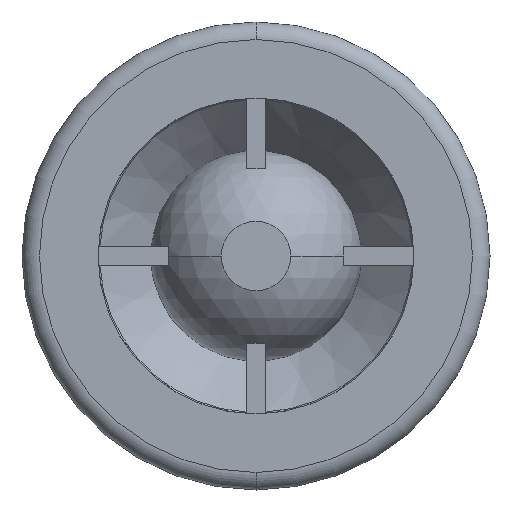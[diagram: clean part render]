
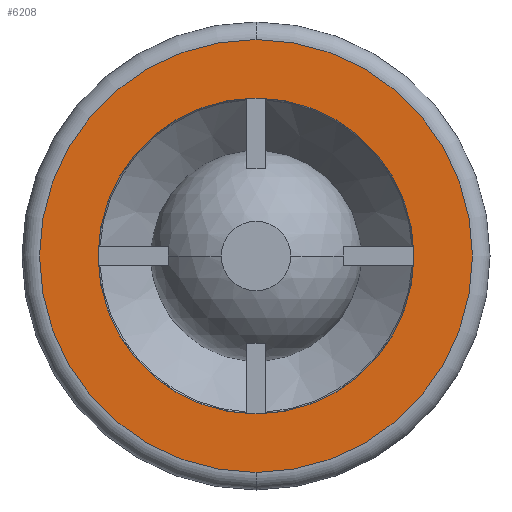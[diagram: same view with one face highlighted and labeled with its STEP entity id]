
A CAD part, front view. The second image highlights one B-rep face of the part: STEP entity #6208.
In plain terms, the highlighted planar face has unit normal (0, -1, 0).
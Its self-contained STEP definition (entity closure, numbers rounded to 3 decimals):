
#341 = EDGE_CURVE ( 'NONE', #342, #343, #2434, .T. ) ;
#342 = VERTEX_POINT ( 'NONE', #2429 ) ;
#343 = VERTEX_POINT ( 'NONE', #2428 ) ;
#447 = EDGE_CURVE ( 'NONE', #536, #448, #2607, .T. ) ;
#448 = VERTEX_POINT ( 'NONE', #2597 ) ;
#536 = VERTEX_POINT ( 'NONE', #2808 ) ;
#569 = EDGE_CURVE ( 'NONE', #448, #536, #2849, .T. ) ;
#2428 = CARTESIAN_POINT ( 'NONE',  ( 0., 0., 18.5 ) ) ;
#2429 = CARTESIAN_POINT ( 'NONE',  ( 0., 0., -18.5 ) ) ;
#2430 = DIRECTION ( 'NONE',  ( 0., 0., 1. ) ) ;
#2431 = DIRECTION ( 'NONE',  ( 0., -1., 0. ) ) ;
#2432 = CARTESIAN_POINT ( 'NONE',  ( 0., 0., 0. ) ) ;
#2433 = AXIS2_PLACEMENT_3D ( 'NONE', #2432, #2431, #2430 ) ;
#2434 = CIRCLE ( 'NONE', #2433, 18.5 ) ;
#2597 = CARTESIAN_POINT ( 'NONE',  ( 0., 0., -13.5 ) ) ;
#2598 = DIRECTION ( 'NONE',  ( 0., 0., -1. ) ) ;
#2599 = DIRECTION ( 'NONE',  ( 0., -1., 0. ) ) ;
#2600 = CARTESIAN_POINT ( 'NONE',  ( 0., 0., 0. ) ) ;
#2601 = AXIS2_PLACEMENT_3D ( 'NONE', #2600, #2599, #2598 ) ;
#2607 = CIRCLE ( 'NONE', #2601, 13.5 ) ;
#2808 = CARTESIAN_POINT ( 'NONE',  ( 0., 0., 13.5 ) ) ;
#2845 = DIRECTION ( 'NONE',  ( 0., 0., -1. ) ) ;
#2846 = DIRECTION ( 'NONE',  ( 0., -1., 0. ) ) ;
#2847 = CARTESIAN_POINT ( 'NONE',  ( 0., 0., 0. ) ) ;
#2848 = AXIS2_PLACEMENT_3D ( 'NONE', #2847, #2846, #2845 ) ;
#2849 = CIRCLE ( 'NONE', #2848, 13.5 ) ;
#4507 = DIRECTION ( 'NONE',  ( 0., 1., 0. ) ) ;
#4509 = DIRECTION ( 'NONE',  ( 0., 0., 1. ) ) ;
#4965 = CARTESIAN_POINT ( 'NONE',  ( -13.5, 0., 0. ) ) ;
#4966 = AXIS2_PLACEMENT_3D ( 'NONE', #4965, #4507, #4509 ) ;
#4967 = PLANE ( 'NONE',  #4966 ) ;
#5450 = FACE_BOUND ( 'NONE', #6231, .T. ) ;
#5451 = FACE_OUTER_BOUND ( 'NONE', #6207, .T. ) ;
#5530 = DIRECTION ( 'NONE',  ( 0., 0., 1. ) ) ;
#5531 = DIRECTION ( 'NONE',  ( 0., -1., 0. ) ) ;
#5532 = AXIS2_PLACEMENT_3D ( 'NONE', #5537, #5531, #5530 ) ;
#5533 = CIRCLE ( 'NONE', #5532, 18.5 ) ;
#5537 = CARTESIAN_POINT ( 'NONE',  ( 0., 0., 0. ) ) ;
#6207 = EDGE_LOOP ( 'NONE', ( #6238, #6239 ) ) ;
#6208 = ADVANCED_FACE ( 'NONE', ( #5451, #5450 ), #4967, .F. ) ;
#6231 = EDGE_LOOP ( 'NONE', ( #6232, #6233 ) ) ;
#6232 = ORIENTED_EDGE ( 'NONE', *, *, #569, .F. ) ;
#6233 = ORIENTED_EDGE ( 'NONE', *, *, #447, .F. ) ;
#6236 = EDGE_CURVE ( 'NONE', #343, #342, #5533, .T. ) ;
#6238 = ORIENTED_EDGE ( 'NONE', *, *, #6236, .T. ) ;
#6239 = ORIENTED_EDGE ( 'NONE', *, *, #341, .T. ) ;
